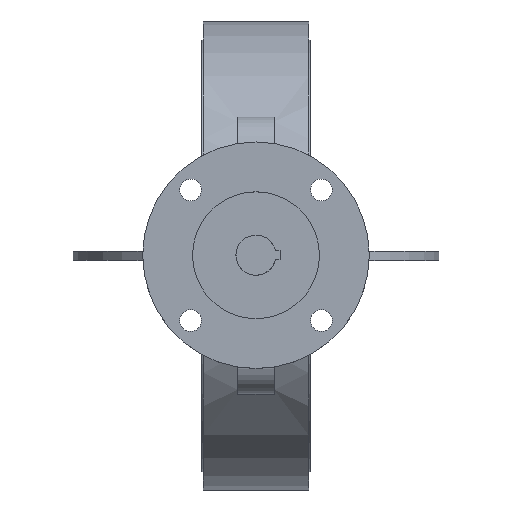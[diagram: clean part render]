
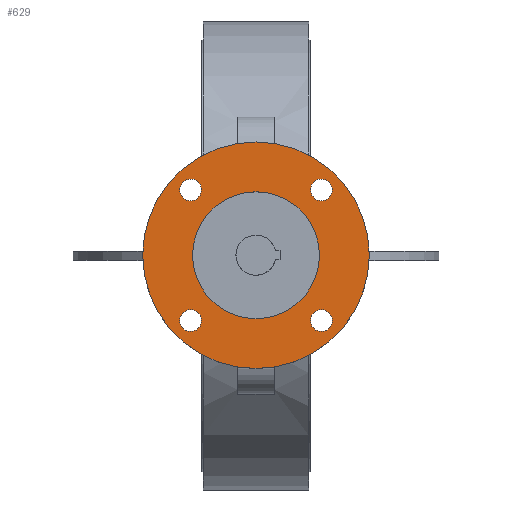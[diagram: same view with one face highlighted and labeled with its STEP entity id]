
A CAD part, top view. The second image highlights one B-rep face of the part: STEP entity #629.
In plain terms, the highlighted planar face has unit normal (0, 0, 1).
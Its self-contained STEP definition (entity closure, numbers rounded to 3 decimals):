
#629=ADVANCED_FACE('',(#1391,#1393,#1395,#1397,#1399,#1401),#1403,.T.);
#1391=FACE_BOUND('',#1392,.T.);
#1392=EDGE_LOOP('',(#1906));
#1393=FACE_BOUND('',#1394,.T.);
#1394=EDGE_LOOP('',(#1907));
#1395=FACE_BOUND('',#1396,.T.);
#1396=EDGE_LOOP('',(#1908));
#1397=FACE_BOUND('',#1398,.T.);
#1398=EDGE_LOOP('',(#1909));
#1399=FACE_BOUND('',#1400,.T.);
#1400=EDGE_LOOP('',(#1910));
#1401=FACE_BOUND('',#1402,.T.);
#1402=EDGE_LOOP('',(#1911));
#1403=PLANE('',#1404);
#1404=AXIS2_PLACEMENT_3D('',#1405,#1406,#1407);
#1405=CARTESIAN_POINT('',(0.,0.,235.));
#1406=DIRECTION('',(0.,0.,1.));
#1407=DIRECTION('',(0.,1.,0.));
#1906=ORIENTED_EDGE('',*,*,#2162,.F.);
#1907=ORIENTED_EDGE('',*,*,#2163,.T.);
#1908=ORIENTED_EDGE('',*,*,#2164,.T.);
#1909=ORIENTED_EDGE('',*,*,#2165,.T.);
#1910=ORIENTED_EDGE('',*,*,#2181,.T.);
#1911=ORIENTED_EDGE('',*,*,#2166,.T.);
#2162=EDGE_CURVE('',#2481,#2481,#2482,.T.);
#2163=EDGE_CURVE('',#2483,#2483,#2484,.F.);
#2164=EDGE_CURVE('',#2485,#2485,#2486,.F.);
#2165=EDGE_CURVE('',#2487,#2487,#2488,.F.);
#2166=EDGE_CURVE('',#2489,#2489,#2490,.F.);
#2181=EDGE_CURVE('',#2519,#2519,#2520,.T.);
#2481=VERTEX_POINT('',#4464);
#2482=CIRCLE('',#4465,62.5);
#2483=VERTEX_POINT('',#4469);
#2484=CIRCLE('',#4470,6.);
#2485=VERTEX_POINT('',#4474);
#2486=CIRCLE('',#4475,6.);
#2487=VERTEX_POINT('',#4479);
#2488=CIRCLE('',#4480,6.);
#2489=VERTEX_POINT('',#4484);
#2490=CIRCLE('',#4485,6.);
#2519=VERTEX_POINT('',#4552);
#2520=CIRCLE('',#4553,35.);
#4464=CARTESIAN_POINT('',(0.,62.5,235.));
#4465=AXIS2_PLACEMENT_3D('',#4466,#4467,#4468);
#4466=CARTESIAN_POINT('',(0.,0.,235.));
#4467=DIRECTION('',(0.,0.,-1.));
#4468=DIRECTION('',(0.,1.,0.));
#4469=CARTESIAN_POINT('',(-30.062,-36.062,235.));
#4470=AXIS2_PLACEMENT_3D('',#4471,#4472,#4473);
#4471=CARTESIAN_POINT('',(-36.062,-36.062,235.));
#4472=DIRECTION('',(0.,0.,1.));
#4473=DIRECTION('',(1.,0.,0.));
#4474=CARTESIAN_POINT('',(-36.062,30.062,235.));
#4475=AXIS2_PLACEMENT_3D('',#4476,#4477,#4478);
#4476=CARTESIAN_POINT('',(-36.062,36.062,235.));
#4477=DIRECTION('',(0.,0.,1.));
#4478=DIRECTION('',(0.,-1.,0.));
#4479=CARTESIAN_POINT('',(30.062,36.062,235.));
#4480=AXIS2_PLACEMENT_3D('',#4481,#4482,#4483);
#4481=CARTESIAN_POINT('',(36.062,36.062,235.));
#4482=DIRECTION('',(0.,0.,1.));
#4483=DIRECTION('',(-1.,0.,0.));
#4484=CARTESIAN_POINT('',(36.062,-30.062,235.));
#4485=AXIS2_PLACEMENT_3D('',#4486,#4487,#4488);
#4486=CARTESIAN_POINT('',(36.062,-36.062,235.));
#4487=DIRECTION('',(0.,0.,1.));
#4488=DIRECTION('',(0.,1.,0.));
#4552=CARTESIAN_POINT('',(0.,35.,235.));
#4553=AXIS2_PLACEMENT_3D('',#4554,#4555,#4556);
#4554=CARTESIAN_POINT('',(0.,0.,235.));
#4555=DIRECTION('',(0.,0.,-1.));
#4556=DIRECTION('',(0.,1.,0.));
